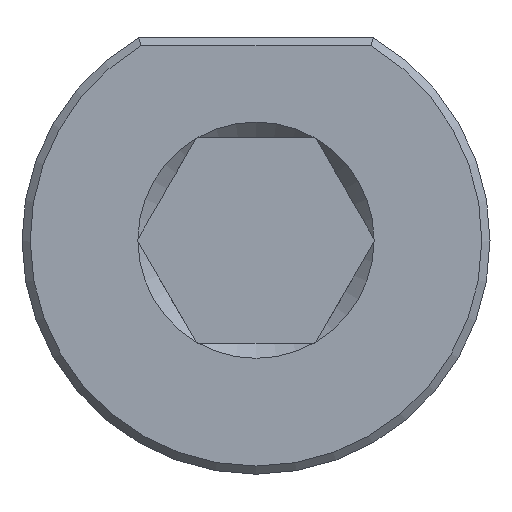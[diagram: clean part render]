
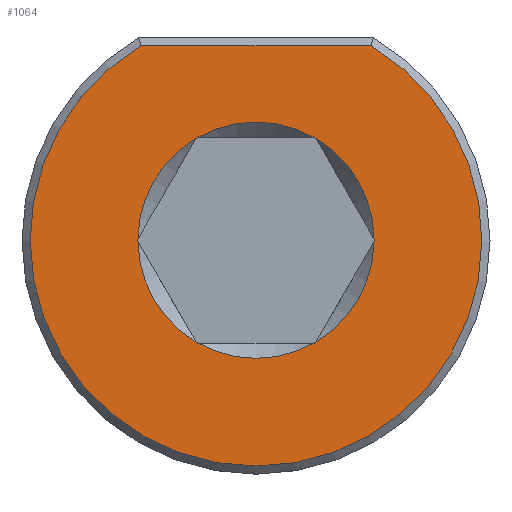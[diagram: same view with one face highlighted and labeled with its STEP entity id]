
A CAD part, front view. The second image highlights one B-rep face of the part: STEP entity #1064.
In plain terms, the highlighted planar face has unit normal (0, -1, 0).
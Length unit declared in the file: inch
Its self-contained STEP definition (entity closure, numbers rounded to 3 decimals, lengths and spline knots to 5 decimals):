
#77=FACE_BOUND('',#202,.T.);
#99=PLANE('',#1191);
#134=FACE_OUTER_BOUND('',#201,.T.);
#201=EDGE_LOOP('',(#789,#790));
#202=EDGE_LOOP('',(#791,#792,#793,#794,#795,#796,#797,#798,#799,#800,#801,
#802));
#281=LINE('',#1810,#327);
#327=VECTOR('',#1426,0.3937);
#364=CIRCLE('',#1163,0.217);
#365=CIRCLE('',#1166,0.217);
#366=CIRCLE('',#1169,0.217);
#367=CIRCLE('',#1172,0.217);
#368=CIRCLE('',#1175,0.217);
#369=CIRCLE('',#1178,0.217);
#370=CIRCLE('',#1180,0.217);
#371=CIRCLE('',#1182,0.217);
#372=CIRCLE('',#1184,0.217);
#373=CIRCLE('',#1186,0.217);
#374=CIRCLE('',#1188,0.217);
#375=CIRCLE('',#1190,0.217);
#376=CIRCLE('',#1192,0.415);
#463=VERTEX_POINT('',#1735);
#464=VERTEX_POINT('',#1737);
#465=VERTEX_POINT('',#1743);
#466=VERTEX_POINT('',#1747);
#467=VERTEX_POINT('',#1753);
#468=VERTEX_POINT('',#1757);
#469=VERTEX_POINT('',#1763);
#470=VERTEX_POINT('',#1767);
#471=VERTEX_POINT('',#1773);
#472=VERTEX_POINT('',#1777);
#473=VERTEX_POINT('',#1783);
#474=VERTEX_POINT('',#1787);
#475=VERTEX_POINT('',#1807);
#476=VERTEX_POINT('',#1808);
#573=EDGE_CURVE('',#465,#463,#364,.T.);
#577=EDGE_CURVE('',#467,#466,#365,.T.);
#581=EDGE_CURVE('',#469,#468,#366,.T.);
#584=EDGE_CURVE('',#464,#471,#367,.T.);
#588=EDGE_CURVE('',#472,#473,#368,.T.);
#592=EDGE_CURVE('',#474,#470,#369,.T.);
#593=EDGE_CURVE('',#466,#465,#370,.T.);
#594=EDGE_CURVE('',#468,#467,#371,.T.);
#595=EDGE_CURVE('',#470,#469,#372,.T.);
#596=EDGE_CURVE('',#473,#474,#373,.T.);
#597=EDGE_CURVE('',#471,#472,#374,.T.);
#598=EDGE_CURVE('',#463,#464,#375,.T.);
#599=EDGE_CURVE('',#475,#476,#376,.T.);
#600=EDGE_CURVE('',#476,#475,#281,.T.);
#789=ORIENTED_EDGE('',*,*,#599,.F.);
#790=ORIENTED_EDGE('',*,*,#600,.F.);
#791=ORIENTED_EDGE('',*,*,#592,.F.);
#792=ORIENTED_EDGE('',*,*,#596,.F.);
#793=ORIENTED_EDGE('',*,*,#588,.F.);
#794=ORIENTED_EDGE('',*,*,#597,.F.);
#795=ORIENTED_EDGE('',*,*,#584,.F.);
#796=ORIENTED_EDGE('',*,*,#598,.F.);
#797=ORIENTED_EDGE('',*,*,#573,.F.);
#798=ORIENTED_EDGE('',*,*,#593,.F.);
#799=ORIENTED_EDGE('',*,*,#577,.F.);
#800=ORIENTED_EDGE('',*,*,#594,.F.);
#801=ORIENTED_EDGE('',*,*,#581,.F.);
#802=ORIENTED_EDGE('',*,*,#595,.F.);
#1064=ADVANCED_FACE('',(#134,#77),#99,.F.);
#1163=AXIS2_PLACEMENT_3D('',#1745,#1357,#1358);
#1166=AXIS2_PLACEMENT_3D('',#1755,#1365,#1366);
#1169=AXIS2_PLACEMENT_3D('',#1765,#1373,#1374);
#1172=AXIS2_PLACEMENT_3D('',#1774,#1380,#1381);
#1175=AXIS2_PLACEMENT_3D('',#1784,#1388,#1389);
#1178=AXIS2_PLACEMENT_3D('',#1793,#1396,#1397);
#1180=AXIS2_PLACEMENT_3D('',#1795,#1400,#1401);
#1182=AXIS2_PLACEMENT_3D('',#1797,#1404,#1405);
#1184=AXIS2_PLACEMENT_3D('',#1799,#1408,#1409);
#1186=AXIS2_PLACEMENT_3D('',#1801,#1412,#1413);
#1188=AXIS2_PLACEMENT_3D('',#1803,#1416,#1417);
#1190=AXIS2_PLACEMENT_3D('',#1805,#1420,#1421);
#1191=AXIS2_PLACEMENT_3D('',#1806,#1422,#1423);
#1192=AXIS2_PLACEMENT_3D('',#1809,#1424,#1425);
#1357=DIRECTION('center_axis',(0.,-1.,0.));
#1358=DIRECTION('ref_axis',(1.,0.,0.));
#1365=DIRECTION('center_axis',(0.,-1.,0.));
#1366=DIRECTION('ref_axis',(1.,0.,0.));
#1373=DIRECTION('center_axis',(0.,-1.,0.));
#1374=DIRECTION('ref_axis',(1.,0.,0.));
#1380=DIRECTION('center_axis',(0.,-1.,0.));
#1381=DIRECTION('ref_axis',(1.,0.,0.));
#1388=DIRECTION('center_axis',(0.,-1.,0.));
#1389=DIRECTION('ref_axis',(1.,0.,0.));
#1396=DIRECTION('center_axis',(0.,-1.,0.));
#1397=DIRECTION('ref_axis',(1.,0.,0.));
#1400=DIRECTION('center_axis',(0.,-1.,0.));
#1401=DIRECTION('ref_axis',(1.,0.,0.));
#1404=DIRECTION('center_axis',(0.,-1.,0.));
#1405=DIRECTION('ref_axis',(1.,0.,0.));
#1408=DIRECTION('center_axis',(0.,-1.,0.));
#1409=DIRECTION('ref_axis',(1.,0.,0.));
#1412=DIRECTION('center_axis',(0.,-1.,0.));
#1413=DIRECTION('ref_axis',(1.,0.,0.));
#1416=DIRECTION('center_axis',(0.,-1.,0.));
#1417=DIRECTION('ref_axis',(1.,0.,0.));
#1420=DIRECTION('center_axis',(0.,-1.,0.));
#1421=DIRECTION('ref_axis',(1.,0.,0.));
#1422=DIRECTION('center_axis',(0.,1.,0.));
#1423=DIRECTION('ref_axis',(1.,0.,0.));
#1424=DIRECTION('center_axis',(0.,1.,0.));
#1425=DIRECTION('ref_axis',(-0.502,0.,-0.865));
#1426=DIRECTION('',(1.,0.,0.));
#1735=CARTESIAN_POINT('',(0.21699,0.,0.00216));
#1737=CARTESIAN_POINT('',(0.11037,0.,0.18684));
#1743=CARTESIAN_POINT('',(0.21699,0.,-0.00216));
#1745=CARTESIAN_POINT('Origin',(0.,0.,0.));
#1747=CARTESIAN_POINT('',(0.11037,0.,-0.18684));
#1753=CARTESIAN_POINT('',(0.10662,0.,-0.189));
#1755=CARTESIAN_POINT('Origin',(0.,0.,0.));
#1757=CARTESIAN_POINT('',(-0.10662,0.,-0.189));
#1763=CARTESIAN_POINT('',(-0.11037,0.,-0.18684));
#1765=CARTESIAN_POINT('Origin',(0.,0.,0.));
#1767=CARTESIAN_POINT('',(-0.21699,0.,-0.00216));
#1773=CARTESIAN_POINT('',(0.10662,0.,0.189));
#1774=CARTESIAN_POINT('Origin',(0.,0.,0.));
#1777=CARTESIAN_POINT('',(-0.10662,0.,0.189));
#1783=CARTESIAN_POINT('',(-0.11037,0.,0.18684));
#1784=CARTESIAN_POINT('Origin',(0.,0.,0.));
#1787=CARTESIAN_POINT('',(-0.21699,0.,0.00216));
#1793=CARTESIAN_POINT('Origin',(0.,0.,0.));
#1795=CARTESIAN_POINT('Origin',(0.,0.,0.));
#1797=CARTESIAN_POINT('Origin',(0.,0.,0.));
#1799=CARTESIAN_POINT('Origin',(0.,0.,0.));
#1801=CARTESIAN_POINT('Origin',(0.,0.,0.));
#1803=CARTESIAN_POINT('Origin',(0.,0.,0.));
#1805=CARTESIAN_POINT('Origin',(0.,0.,0.));
#1806=CARTESIAN_POINT('Origin',(0.,0.,-0.029));
#1807=CARTESIAN_POINT('',(0.2116,0.,0.357));
#1808=CARTESIAN_POINT('',(-0.2116,0.,0.357));
#1809=CARTESIAN_POINT('Origin',(0.,0.,0.));
#1810=CARTESIAN_POINT('',(-0.10784,0.,0.357));
